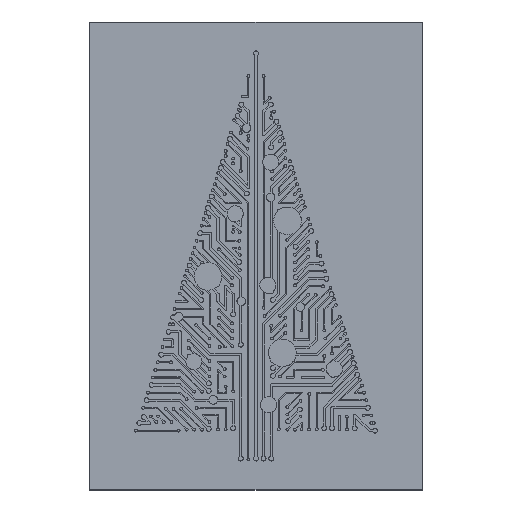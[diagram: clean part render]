
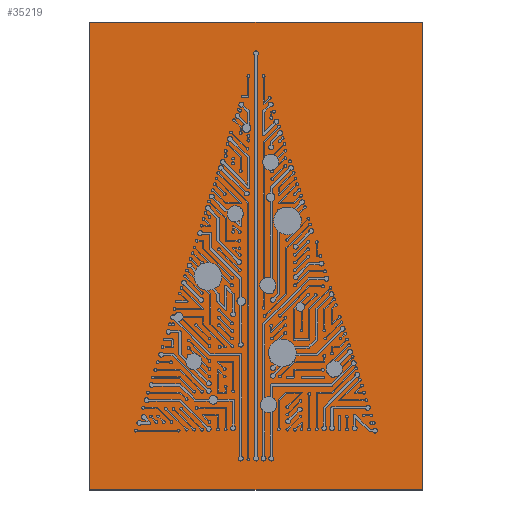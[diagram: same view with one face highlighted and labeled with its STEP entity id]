
A CAD part, top view. The second image highlights one B-rep face of the part: STEP entity #35219.
In plain terms, the highlighted planar face has unit normal (0, 0, 1).
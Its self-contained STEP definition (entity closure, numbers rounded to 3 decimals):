
#4011=FACE_OUTER_BOUND('',#6073,.T.);
#6073=EDGE_LOOP('',(#23373,#23374,#23375,#23376));
#8135=LINE('',#42838,#11145);
#8138=LINE('',#42844,#11148);
#8141=LINE('',#42850,#11151);
#8144=LINE('',#42854,#11154);
#11145=VECTOR('',#38212,10.);
#11148=VECTOR('',#38217,10.);
#11151=VECTOR('',#38222,10.);
#11154=VECTOR('',#38227,10.);
#14155=VERTEX_POINT('',#42835);
#14156=VERTEX_POINT('',#42837);
#14158=VERTEX_POINT('',#42843);
#14160=VERTEX_POINT('',#42849);
#17833=EDGE_CURVE('',#14156,#14155,#8135,.T.);
#17836=EDGE_CURVE('',#14158,#14156,#8138,.T.);
#17839=EDGE_CURVE('',#14160,#14158,#8141,.T.);
#17842=EDGE_CURVE('',#14155,#14160,#8144,.T.);
#23373=ORIENTED_EDGE('',*,*,#17842,.T.);
#23374=ORIENTED_EDGE('',*,*,#17839,.T.);
#23375=ORIENTED_EDGE('',*,*,#17836,.T.);
#23376=ORIENTED_EDGE('',*,*,#17833,.T.);
#34413=PLANE('',#37404);
#35219=ADVANCED_FACE('',(#4011),#34413,.T.);
#37404=AXIS2_PLACEMENT_3D('',#42855,#38228,#38229);
#38212=DIRECTION('',(-1.,0.,0.));
#38217=DIRECTION('',(0.,1.,0.));
#38222=DIRECTION('',(1.,0.,0.));
#38227=DIRECTION('',(0.,-1.,0.));
#38228=DIRECTION('center_axis',(0.,0.,1.));
#38229=DIRECTION('ref_axis',(1.,0.,0.));
#42835=CARTESIAN_POINT('',(0.,148.,3.));
#42837=CARTESIAN_POINT('',(105.,148.,3.));
#42838=CARTESIAN_POINT('',(105.,148.,3.));
#42843=CARTESIAN_POINT('',(105.,0.,3.));
#42844=CARTESIAN_POINT('',(105.,0.,3.));
#42849=CARTESIAN_POINT('',(0.,0.,3.));
#42850=CARTESIAN_POINT('',(0.,0.,3.));
#42854=CARTESIAN_POINT('',(0.,148.,3.));
#42855=CARTESIAN_POINT('Origin',(52.5,74.,3.));
